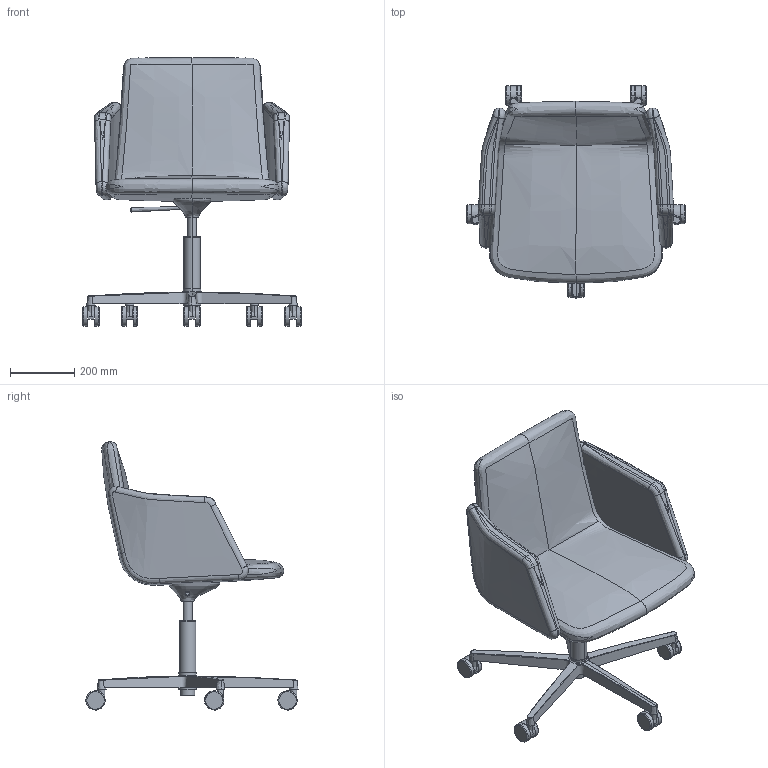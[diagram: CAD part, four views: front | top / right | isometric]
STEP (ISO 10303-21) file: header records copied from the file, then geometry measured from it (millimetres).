
FILE_DESCRIPTION(/* description */ (''),/* implementation_level */ '2;1');
FILE_NAME(/* name */ 'HAC72C~1',/* time_stamp */ '2016-07-26T15:35:14+02:00',/* author */ (''),/* organization */ (''),/* preprocessor_version */ 'ST-DEVELOPER v15',/* originating_system */ '',/* authorisation */ '');
FILE_SCHEMA (('CONFIG_CONTROL_DESIGN'));
Length unit declared in the file: millimetre
Products named in the file (1): Document
Bounding box: 677.7 x 659.54 x 833.78 mm (x, y, z)
Volume: 188724.9 mm3; surface area: 1699942.4 mm2
Topology: 5 solids, 35 shells, 227 faces, 514 edges, 328 vertices
Faces by surface type: bspline 192, plane 35
Entity records: 22114 total; most frequent: CARTESIAN_POINT 19060, ORIENTED_EDGE 897, EDGE_CURVE 511, VERTEX_POINT 322, B_SPLINE_CURVE_WITH_KNOTS 264, EDGE_LOOP 229, ADVANCED_FACE 227, FACE_OUTER_BOUND 227
